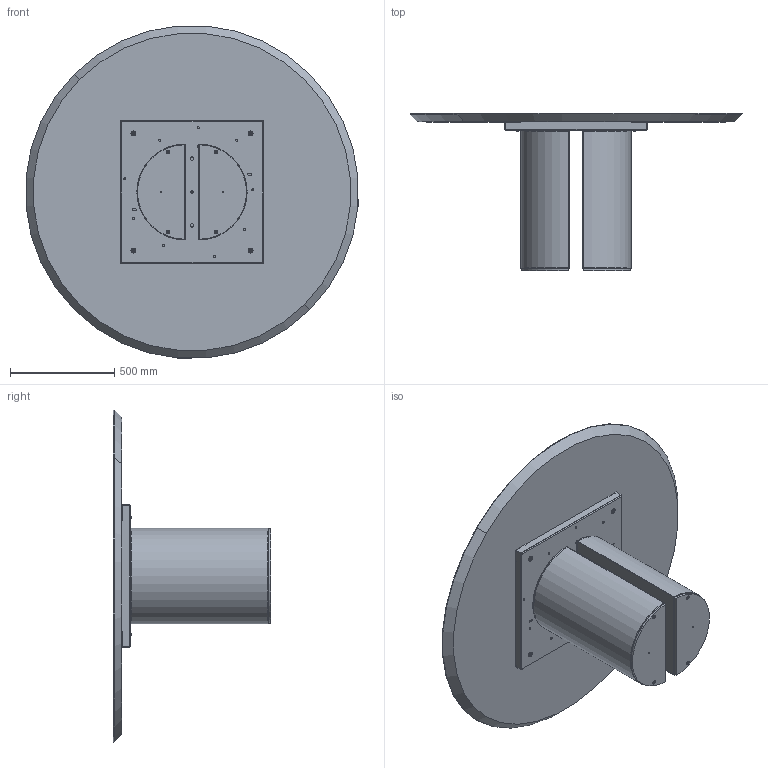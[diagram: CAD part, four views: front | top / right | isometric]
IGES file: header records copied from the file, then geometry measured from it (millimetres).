
Start section: SolidWorks IGES file using analytic representation for surfaces
Global section: file name: Y:\eforma\TECNICO\SOLIDWORKS\E-FORMA\1-TAVOLI\DORA\02 parts\DR08W.IGS; native system: SolidWorks 2022; preprocessor: SolidWorks 2022; author: eforma.tech; date: 240806.150201; units: millimetre
Bounding box: 1593.91 x 754 x 1593.91 mm (x, y, z)
Volume: 84882052.6 mm3; surface area: 9165726.5 mm2
Topology: 28 solids, 28 shells, 864 faces, 2142 edges, 1322 vertices
Faces by surface type: revolution 458, plane 406
